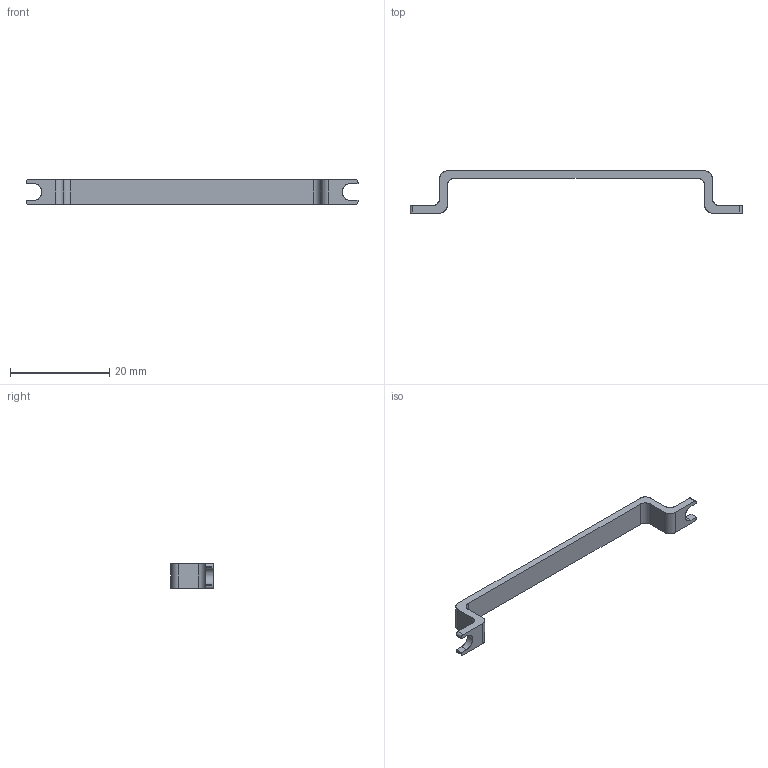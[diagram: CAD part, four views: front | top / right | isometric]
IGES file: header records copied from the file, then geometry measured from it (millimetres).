
Start section: SolidWorks IGES file using analytic representation for surfaces
Global section: file name: C:\Users\HIAPAD\Desktop\ｽ篥ﾜﾎﾄｼ\3-70T-001 ﾏﾟﾀﾂﾖｧｳﾅｼﾜ.IGS,; native system: SolidWorks 2021; preprocessor: SolidWorks 2021; author: HIAPAD; date: 231010.115224; units: millimetre
Bounding box: 67 x 8.5 x 5 mm (x, y, z)
Surface area: 1016.8 mm2 (no closed solid volume)
Topology: 0 solids, 0 shells, 34 faces, 388 edges, 388 vertices
Faces by surface type: bspline 20, revolution 14
